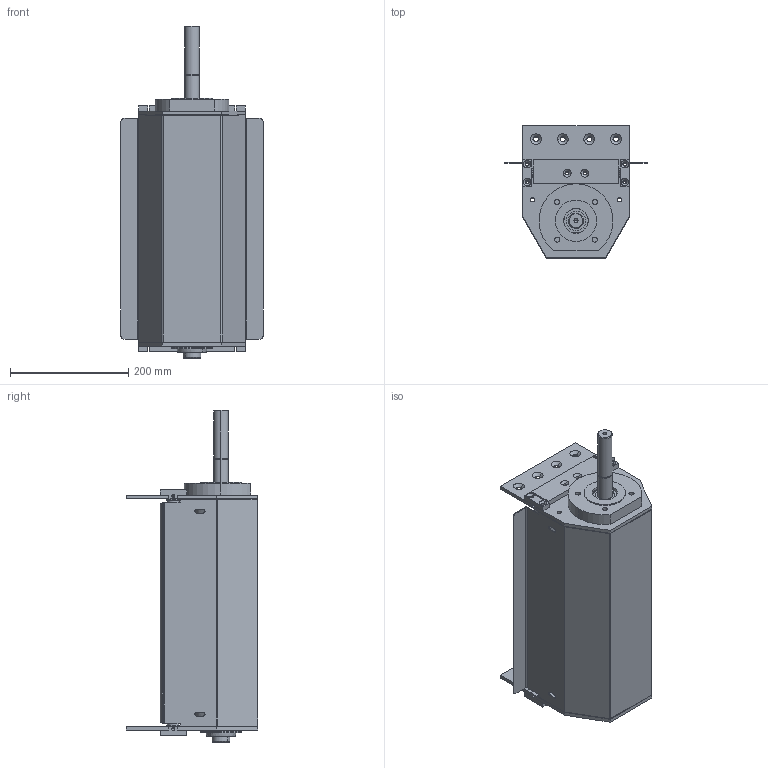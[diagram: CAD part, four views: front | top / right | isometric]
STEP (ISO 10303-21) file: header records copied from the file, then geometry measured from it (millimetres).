
FILE_DESCRIPTION (( 'STEP AP203' ), '1' );
FILE_NAME ('084.095.KCS.49.350.STEP', '2013-10-18T12:05:05', ( '' ), ( '' ), 'SwSTEP 2.0', 'SolidWorks 2011', '' );
FILE_SCHEMA (( 'CONFIG_CONTROL_DESIGN' ));
Length unit declared in the file: millimetre
Products named in the file (18): 084.095.KCS.49.350; CUSCINETTI A SFERE_6004-2RS; 084.802.003-1; 084.812.003; 084.802.020; 084.802.004-1; 084.810.003; 084.814.003-1; 084.802.021; 084.802.011; 084.817.110; 084.802.012_Solo centrale; 084.817.109; 084.817.108; 084.802.048; 084.802.047; 084.802.046; 084.816.118_084.816.107<A macchina>
Assembly tree (31 placements, depth 2):
  084.095.KCS.49.350
    084.802.048  x4
    CUSCINETTI A SFERE_6004-2RS  x4
    084.817.108  x2
    084.802.046
    084.802.047
    084.802.004-1  x4
    084.817.109  x2
    084.802.011
    084.810.003  x2
    084.816.118_084.816.107<A macchina>
    084.812.003
    084.817.110
    084.802.012_Solo centrale  x2
    084.802.020
    084.802.003-1  x2
    084.814.003-1
    084.802.021
Bounding box: 240 x 223 x 561 mm (x, y, z)
Volume: 2782974.8 mm3; surface area: 1332210.8 mm2
Topology: 33 solids, 33 shells, 915 faces, 2236 edges, 1432 vertices
Faces by surface type: cylinder 373, plane 331, cone 133, torus 68, sphere 10
Entity records: 19628 total; most frequent: DIRECTION 3270, CARTESIAN_POINT 3017, ORIENTED_EDGE 2780, EDGE_CURVE 1390, AXIS2_PLACEMENT_3D 1288, VERTEX_POINT 895, EDGE_LOOP 717, LINE 694
